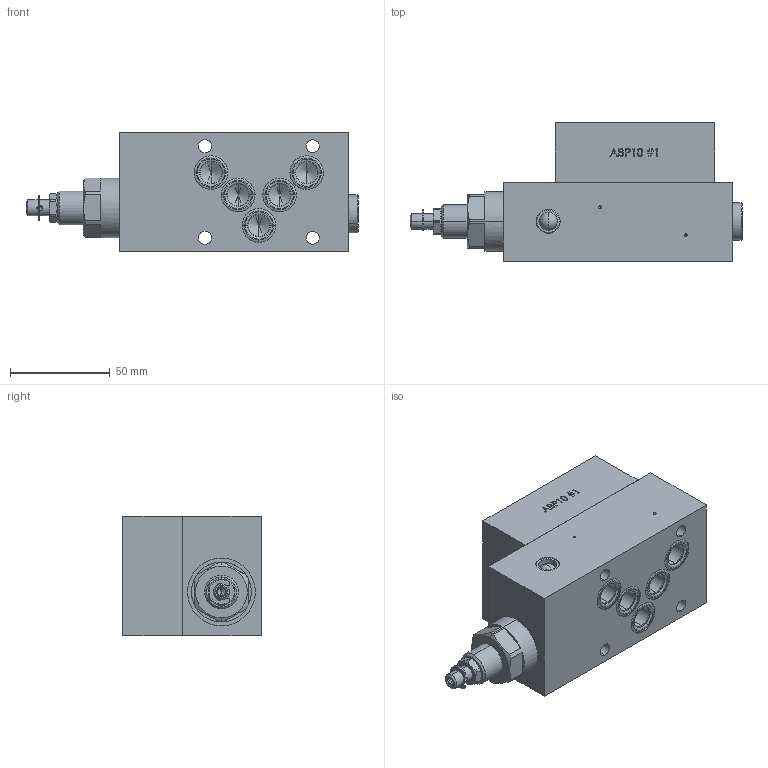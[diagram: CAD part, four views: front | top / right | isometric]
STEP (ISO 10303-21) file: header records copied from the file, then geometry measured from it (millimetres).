
FILE_DESCRIPTION (( 'STEP AP214' ), '1' );
FILE_NAME ('B.SFA10-P.STEP', '2017-03-23T07:28:00', ( '' ), ( '' ), 'SwSTEP 2.0', 'SolidWorks 2016', '' );
FILE_SCHEMA (( 'AUTOMOTIVE_DESIGN' ));
Length unit declared in the file: millimetre
Products named in the file (1): B.SFA10-P
Bounding box: 166.5 x 69.5 x 60 mm (x, y, z)
Volume: 399495.7 mm3; surface area: 69045.5 mm2
Topology: 12 solids, 16 shells, 496 faces, 1225 edges, 778 vertices
Faces by surface type: plane 185, cylinder 160, cone 73, bspline 64, sphere 12, torus 2
Entity records: 22495 total; most frequent: CARTESIAN_POINT 5306, DIRECTION 2408, ORIENTED_EDGE 2394, EDGE_CURVE 1197, AXIS2_PLACEMENT_3D 920, VERTEX_POINT 778, EDGE_LOOP 585, LINE 568
